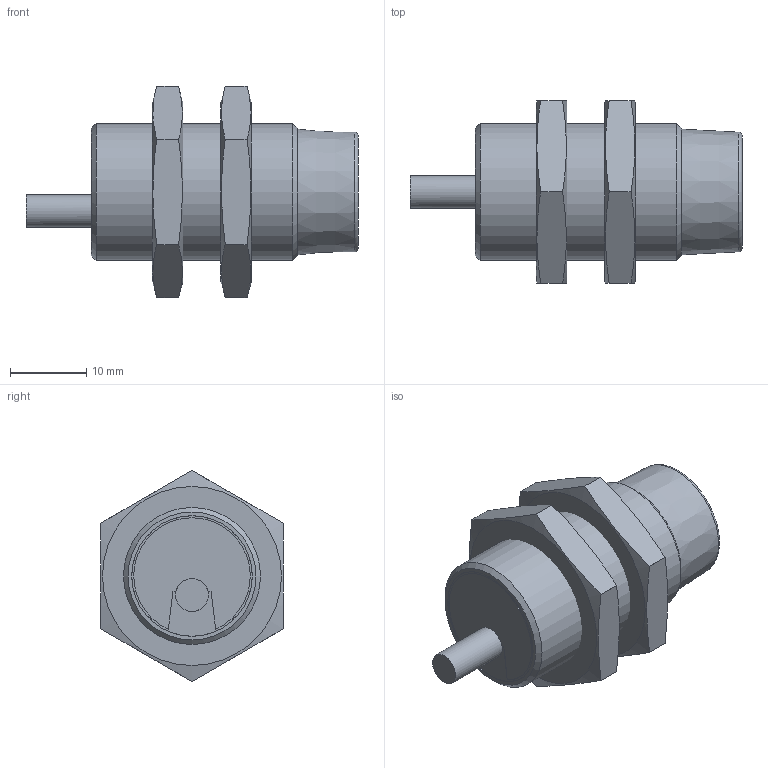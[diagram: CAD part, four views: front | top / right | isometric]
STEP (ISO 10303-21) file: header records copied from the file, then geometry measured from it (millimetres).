
FILE_DESCRIPTION( ( 'Unknown' ), '1' );
FILE_NAME( 'X:/SolidEdge/Models/Dokumentationen/Induktiv/IR18/vereinfachte Modelle/Neutralformate/IR18.xxxx-N35.xxxx.7BCV.stp', 'Unknown', ( 'Unknown' ), ( 'Unknown' ), 'PSStep 15.0.49', 'Unknown', ' ' );
FILE_SCHEMA( ( 'AUTOMOTIVE_DESIGN { 1 0 10303 214 1 1 1 1 }' ) );
Length unit declared in the file: millimetre
Products named in the file (3): Assem1; IR18.xxxx-N35.xxxx.7BCV_oA; 101474
Assembly tree (3 placements, depth 2):
  Assem1
    IR18.xxxx-N35.xxxx.7BCV_oA
    101474  x2
Bounding box: 43.6 x 24 x 27.71 mm (x, y, z)
Volume: 10746.4 mm3; surface area: 4606.9 mm2
Topology: 3 solids, 3 shells, 52 faces, 129 edges, 86 vertices
Faces by surface type: plane 26, cylinder 17, cone 8, torus 1
Full cylindrical faces by diameter (mm): 4.3 x1, 16.917 x2, 18 x1
Entity records: 1346 total; most frequent: CARTESIAN_POINT 257, DIRECTION 164, ORIENTED_EDGE 136, AXIS2_PLACEMENT_3D 69, EDGE_CURVE 68, EDGE_LOOP 50, VERTEX_POINT 50, FACE_OUTER_BOUND 39
